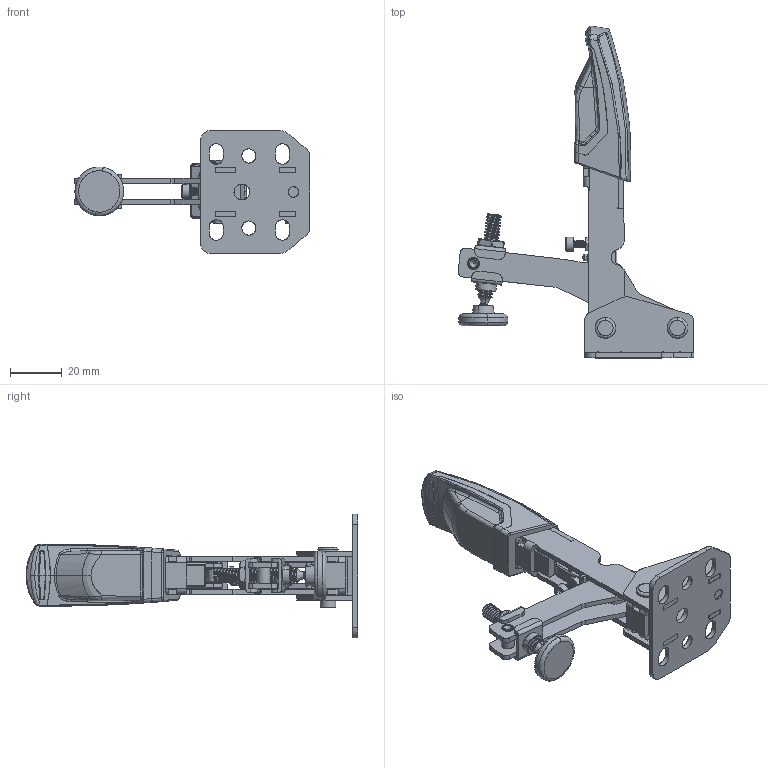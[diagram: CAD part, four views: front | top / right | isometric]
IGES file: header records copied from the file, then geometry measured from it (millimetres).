
Start section: ZWSOFT
Global section: file name: STC-VH20.igs; native system: ZW3D; preprocessor: 1.0; author: ZW3D; organization: ZWSOFT; date: 200702.115250; units: millimetre
Bounding box: 91.58 x 128.86 x 48 mm (x, y, z)
Surface area: 45605.5 mm2 (no closed solid volume)
Topology: 0 solids, 0 shells, 1434 faces, 9206 edges, 9043 vertices
Faces by surface type: bspline 1434
